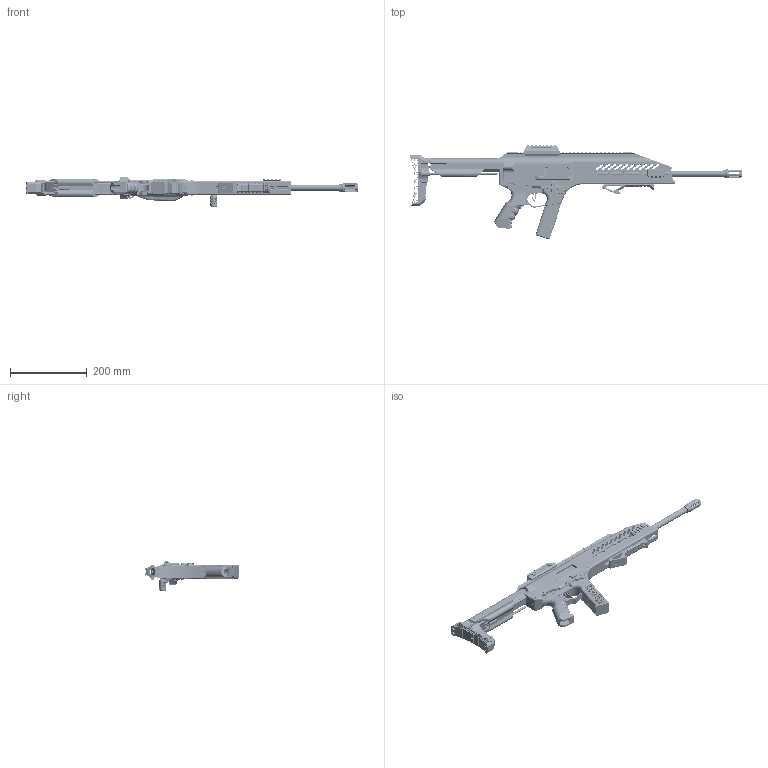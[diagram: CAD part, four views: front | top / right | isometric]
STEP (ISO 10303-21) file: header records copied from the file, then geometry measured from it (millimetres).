
FILE_DESCRIPTION(/* description */ (''),/* implementation_level */ '2;1');
FILE_NAME(/* name */ 'D:/Pew Pews/FGC-9_MkII_Stingray_Edition/Stingray edition/.step files/Stingray full assembly.step',/* time_stamp */ '2022-05-23T19:33:39-06:00',/* author */ (''),/* organization */ (''),/* preprocessor_version */ 'ST-DEVELOPER v18.1',/* originating_system */ 'Autodesk Translation Framework v10.10.0.1391',/* authorisation */ '');
FILE_SCHEMA (('AUTOMOTIVE_DESIGN { 1 0 10303 214 3 1 1 }'));
Products named in the file (122): FGC-9_MkII; Upper; Charging Handle Assembly; Hex Key 5mm 82.5mm +-2.5mm OAL,  25mm+ Short Leg; Charging Handle Bushing; Charging handle tri stip edition; Bolt Assembly; Bolt Housing; Bolt; Socket Head Screw M3 DIN 912 20mm; Nut M3 DIN 934 3 - Apply Loctite to threads; Firing Pin Assembly; Shaft Collar DIN705 3mm; Set Screw M2 DIN 551 3mm; Shaft Collar DIN705 3mm Body; Round Steel OD3mm L67; Compression Spring OD 6mm, Wire 1mm, Factory L 25mm +-1, Cut to L 7.5
mm +-0.5,  to allow 1.5mm +-0.25 of firing pin protrusion from bolt fa
ce; Barrel Assembly; 9x19mm Barrel 114mm Length, 16mm OD, Chambered 15.95mm deep; Shaft Collars DIN 705; Shaft Collar DIN 705 ID16mm OD28mm  1; Cup Point Set Screw M6 DIN 916 6mm 1; Shaft Collar DIN705 16mm Body 1; Shaft Collar DIN 705 ID16mm OD28mm  2; Cup Point Set Screw M6 DIN 916 6mm 2; Shaft Collar DIN705 16mm Body 2; Shaft Collar DIN 705 ID16mm OD28mm  3; Cup Point Set Screw M6 DIN 916 6mm 3; Shaft Collar DIN705 16mm Body 3; 9x19mm Cartridge; 9x19mm Case; .355 Bullet; Small Pistol Primer; Flash Hider; Barrel Retainer Assembly; Barrel Retainer; Vented Handguard.; Barrel Retainer (1); Barrel Retainer Screws; Hex Head Screw M3 DIN 933 40mm 1 ...
Assembly tree (121 placements, depth 6):
  FGC-9_MkII
    Upper
      Charging Handle Assembly
        Hex Key 5mm 82.5mm +-2.5mm OAL,  25mm+ Short Leg
        Charging Handle Bushing
        Charging handle tri stip edition
      Bolt Assembly
        Bolt Housing
        Bolt
        Socket Head Screw M3 DIN 912 20mm
        Nut M3 DIN 934 3 - Apply Loctite to threads
        Firing Pin Assembly
          Shaft Collar DIN705 3mm
            Set Screw M2 DIN 551 3mm
            Shaft Collar DIN705 3mm Body
          Round Steel OD3mm L67
        Compression Spring OD 6mm, Wire 1mm, Factory L 25mm +-1, Cut to L 7.5
mm +-0.5,  to allow 1.5mm +-0.25 of firing pin protrusion from bolt fa
ce
      Barrel Assembly
        9x19mm Barrel 114mm Length, 16mm OD, Chambered 15.95mm deep
        Shaft Collars DIN 705
          Shaft Collar DIN 705 ID16mm OD28mm  1
            Cup Point Set Screw M6 DIN 916 6mm 1
            Shaft Collar DIN705 16mm Body 1
          Shaft Collar DIN 705 ID16mm OD28mm  2
            Cup Point Set Screw M6 DIN 916 6mm 2
            Shaft Collar DIN705 16mm Body 2
          Shaft Collar DIN 705 ID16mm OD28mm  3
            Cup Point Set Screw M6 DIN 916 6mm 3
            Shaft Collar DIN705 16mm Body 3
        9x19mm Cartridge
          9x19mm Case
          .355 Bullet
          Small Pistol Primer
        Flash Hider
      Barrel Retainer Assembly
        Barrel Retainer
          Vented Handguard.
          Barrel Retainer (1)
        Barrel Retainer Screws
          Hex Head Screw M3 DIN 933 40mm 1
          Washer M3 DIN 125 1
          Hex Head Screw M3 DIN 933 40mm 2
          Washer M3 DIN 125 2
          Hex Head Screw M3 DIN 933 40mm 3
          Washer M3 DIN 125 3
          Hex Head Screw M3 DIN 933 40mm 4
          Washer M3 DIN 125 4
      Socket Head Screw M3 DIN 912 16mm 8
      AR-15 Carbine Buffer Spring
      Diagonally knurled M3 Thread Insert  M3 X D5.0 X L7.0 "SL-Type" 2
      Diagonally knurled M3 Thread Insert  M3 X D5.0 X L7.0 "SL-Type" 3
      Top Rail
        Top Rail tall back (1)
        Top Rail tall front (1)
      Upper Receiver
      Ejector
      mlok picatinny rail
        pic_rail_cut_complete v1
      Sight riser
      Hand stop 2
Bounding box: 864.49 x 247.33 x 77.59 mm (x, y, z)
Volume: 1430160.8 mm3; surface area: 623828 mm2
Topology: 101 solids, 114 shells, 11643 faces, 31664 edges, 20529 vertices
Faces by surface type: plane 6372, cylinder 3195, bspline 1322, cone 481, torus 203, sphere 70
Full cylindrical faces by diameter (mm): 0.813 x1, 0.889 x5, 1.143 x5, 1.478 x2, 1.5 x1, 1.623 x3, 1.9 x1, 1.933 x3, 2 x1, 2.05 x8, 2.074 x3, 2.2 x1, 2.35 x591, 2.362 x1, 2.5 x33, 2.65 x9, 2.7 x6, 2.8 x1, 2.85 x10, 2.87 x1, 2.9 x5, 3 x672, 3.048 x1, 3.111 x3, 3.15 x4, 3.2 x11, 3.25 x1, 3.3 x1, 3.4 x5, 3.5 x1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
Entity records: 638083 total; most frequent: CARTESIAN_POINT 355949, ORIENTED_EDGE 63160, DIRECTION 50418, EDGE_CURVE 31580, VERTEX_POINT 20529, LINE 17188, VECTOR 17188, AXIS2_PLACEMENT_3D 16615
